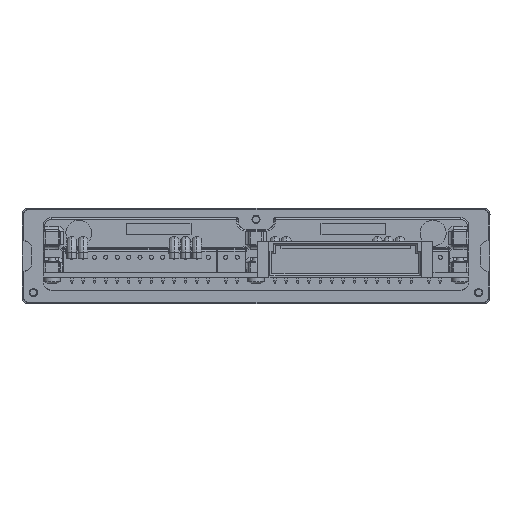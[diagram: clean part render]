
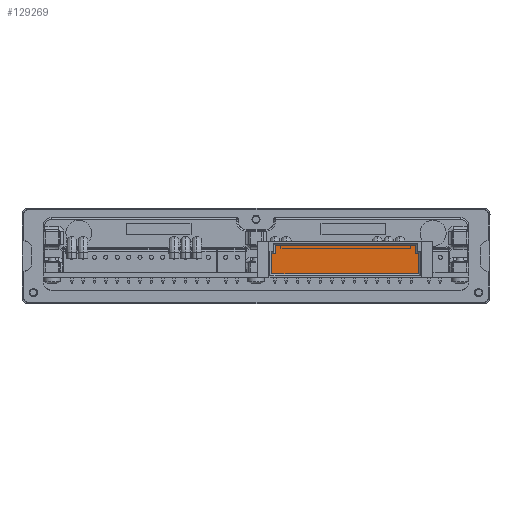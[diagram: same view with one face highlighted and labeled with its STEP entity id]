
A CAD part, left-side view. The second image highlights one B-rep face of the part: STEP entity #129269.
In plain terms, the highlighted free-form (B-spline) face has degree [1, 1] with [2, 2] control points.
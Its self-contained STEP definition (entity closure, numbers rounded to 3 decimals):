
#33990=DIRECTION('',(0.,-1.,0.));
#33991=VECTOR('',#33990,45.2);
#33992=CARTESIAN_POINT('',(-72.29,74.75,24.65));
#33993=LINE('',#33992,#33991);
#33994=DIRECTION('',(0.,0.,-1.));
#33995=VECTOR('',#33994,6.2);
#33996=CARTESIAN_POINT('',(-72.29,74.75,30.85));
#33997=LINE('',#33996,#33995);
#33998=DIRECTION('',(0.,1.,0.));
#33999=VECTOR('',#33998,1.);
#34000=CARTESIAN_POINT('',(-72.29,73.75,30.85));
#34001=LINE('',#34000,#33999);
#34002=DIRECTION('',(0.,0.,-1.));
#34003=VECTOR('',#34002,2.5);
#34004=CARTESIAN_POINT('',(-72.29,73.75,33.35));
#34005=LINE('',#34004,#34003);
#34006=DIRECTION('',(0.,1.,0.));
#34007=VECTOR('',#34006,43.2);
#34008=CARTESIAN_POINT('',(-72.29,30.55,33.35));
#34009=LINE('',#34008,#34007);
#34010=DIRECTION('',(0.,0.,1.));
#34011=VECTOR('',#34010,2.5);
#34012=CARTESIAN_POINT('',(-72.29,30.55,30.85));
#34013=LINE('',#34012,#34011);
#34014=DIRECTION('',(0.,1.,0.));
#34015=VECTOR('',#34014,1.);
#34016=CARTESIAN_POINT('',(-72.29,29.55,30.85));
#34017=LINE('',#34016,#34015);
#34018=DIRECTION('',(0.,0.,1.));
#34019=VECTOR('',#34018,6.2);
#34020=CARTESIAN_POINT('',(-72.29,29.55,24.65));
#34021=LINE('',#34020,#34019);
#34517=CARTESIAN_POINT('',(-72.29,74.75,24.65));
#34518=CARTESIAN_POINT('',(-72.29,29.55,24.65));
#34519=VERTEX_POINT('',#34517);
#34520=VERTEX_POINT('',#34518);
#34521=CARTESIAN_POINT('',(-72.29,29.55,30.85));
#34522=VERTEX_POINT('',#34521);
#34523=CARTESIAN_POINT('',(-72.29,30.55,30.85));
#34524=VERTEX_POINT('',#34523);
#34525=CARTESIAN_POINT('',(-72.29,30.55,33.35));
#34526=VERTEX_POINT('',#34525);
#34527=CARTESIAN_POINT('',(-72.29,73.75,33.35));
#34528=VERTEX_POINT('',#34527);
#34529=CARTESIAN_POINT('',(-72.29,73.75,30.85));
#34530=VERTEX_POINT('',#34529);
#34531=CARTESIAN_POINT('',(-72.29,74.75,30.85));
#34532=VERTEX_POINT('',#34531);
#129254=CARTESIAN_POINT('',(-72.29,28.646,24.476));
#129255=CARTESIAN_POINT('',(-72.29,75.654,24.476));
#129256=CARTESIAN_POINT('',(-72.29,28.646,33.524));
#129257=CARTESIAN_POINT('',(-72.29,75.654,33.524));
#129258=B_SPLINE_SURFACE_WITH_KNOTS('',1,1,((#129254,#129255),(#129256,
#129257)),.UNSPECIFIED.,.F.,.F.,.F.,(2,2),(2,2),(1.026,10.074),(-50.454,
-3.446),.UNSPECIFIED.);
#129259=ORIENTED_EDGE('',*,*,#129116,.F.);
#129260=ORIENTED_EDGE('',*,*,#129137,.F.);
#129261=ORIENTED_EDGE('',*,*,#129158,.F.);
#129262=ORIENTED_EDGE('',*,*,#129179,.F.);
#129263=ORIENTED_EDGE('',*,*,#129200,.F.);
#129264=ORIENTED_EDGE('',*,*,#129221,.F.);
#129265=ORIENTED_EDGE('',*,*,#129241,.F.);
#129266=ORIENTED_EDGE('',*,*,#129094,.F.);
#129267=EDGE_LOOP('',(#129259,#129260,#129261,#129262,#129263,#129264,#129265,
#129266));
#129268=FACE_OUTER_BOUND('',#129267,.F.);
#129269=ADVANCED_FACE('',(#129268),#129258,.T.);
#129094=EDGE_CURVE('',#34520,#34522,#34021,.T.);
#129116=EDGE_CURVE('',#34519,#34520,#33993,.T.);
#129137=EDGE_CURVE('',#34532,#34519,#33997,.T.);
#129158=EDGE_CURVE('',#34530,#34532,#34001,.T.);
#129179=EDGE_CURVE('',#34528,#34530,#34005,.T.);
#129200=EDGE_CURVE('',#34526,#34528,#34009,.T.);
#129221=EDGE_CURVE('',#34524,#34526,#34013,.T.);
#129241=EDGE_CURVE('',#34522,#34524,#34017,.T.);
